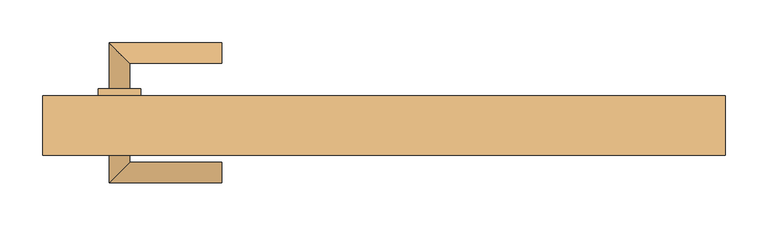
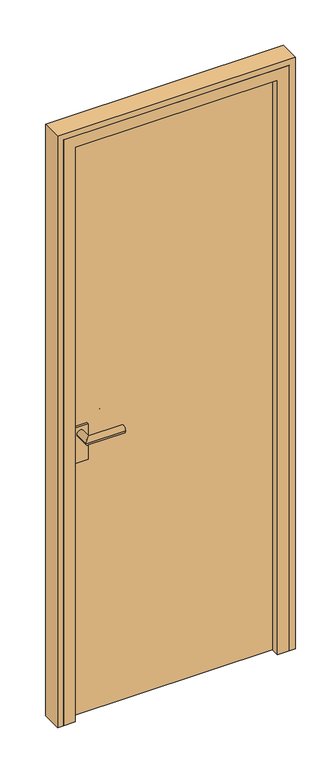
"""IFC4 building model written with IfcOpenShell, lengths in millimetres: door geometry, Дверь однопольная : дерев.внутр.глух 8х21 Л."""

from ifc_helpers import new_model, si_unit, frame, origin, origin_with_axes, place, context, project, spatial, polyline, circle_curve, ellipse_curve, outline, extrude, faceted_brep, source, transform, mapped, element, save
from ifc_brep_helpers import plane_surface, cylinder_surface, advanced_brep


def door_09ff0dbc(model_context):
    return source(origin(), model_context, "Body", "SolidModel", [
        advanced_brep(
        [(-190.0, 104.5, 1000.0), (-190.0, 80.5, 1000.0), (-322.0, 104.5, 1000.0), (-298.0, 80.5, 1000.0), (-322.0, 50.5, 1000.0), (-298.0, 50.5, 1000.0), (-322.0, -59.5, 1000.0), (-298.0, -35.5, 1000.0), (-298.0, -5.5, 1000.0), (-322.0, -5.5, 1000.0), (-190.0, -59.5, 1000.0), (-190.0, -35.5, 1000.0), (-335.0, 50.5, 1025.0), (-285.0, 50.5, 1025.0), (-285.0, 50.5, 900.0), (-335.0, 50.5, 900.0), (-335.0, -5.5, 1025.0), (-335.0, -5.5, 900.0), (-285.0, -5.5, 900.0), (-285.0, -5.5, 1025.0)],
        [
            (0, 1, circle_curve(frame((-190.0, 92.5, 1000.0), z_axis=(1.0, 0.0, 0.0), x_axis=(0.0, -1.0, 0.0)), 12.0)),
            (1, 0, circle_curve(frame((-190.0, 92.5, 1000.0), z_axis=(1.0, 0.0, 0.0), x_axis=(0.0, -1.0, 0.0)), 12.0)),
            (0, 2),
            (2, 3, ellipse_curve(frame((-310.0, 92.5, 1000.0), z_axis=(0.7071067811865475, 0.7071067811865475, 0.0), x_axis=(0.7071067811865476, -0.7071067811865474, 0.0)), 16.9705627, 12.0)),
            (3, 1),
            (3, 2, ellipse_curve(frame((-310.0, 92.5, 1000.0), z_axis=(0.7071067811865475, 0.7071067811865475, 0.0), x_axis=(0.7071067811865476, -0.7071067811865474, 0.0)), 16.9705627, 12.0)),
            (2, 4),
            (4, 5, circle_curve(frame((-310.0, 50.5, 1000.0), z_axis=(0.0, 1.0, 0.0), x_axis=(1.0, 0.0, 0.0)), 12.0)),
            (5, 3),
            (6, 7, ellipse_curve(frame((-310.0, -47.5, 1000.0), z_axis=(-0.7071067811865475, 0.7071067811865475, 0.0), x_axis=(0.7071067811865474, 0.7071067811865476, 0.0)), 16.9705627, 12.0)),
            (7, 8),
            (8, 9, circle_curve(frame((-310.0, -5.5, 1000.0), z_axis=(0.0, -1.0, 0.0), x_axis=(1.0, 0.0, 0.0)), 12.0)),
            (9, 6),
            (5, 4, circle_curve(frame((-310.0, 50.5, 1000.0), z_axis=(0.0, 1.0, 0.0), x_axis=(1.0, 0.0, 0.0)), 12.0)),
            (7, 6, ellipse_curve(frame((-310.0, -47.5, 1000.0), z_axis=(-0.7071067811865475, 0.7071067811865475, 0.0), x_axis=(0.7071067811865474, 0.7071067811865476, 0.0)), 16.9705627, 12.0)),
            (9, 8, circle_curve(frame((-310.0, -5.5, 1000.0), z_axis=(0.0, -1.0, 0.0), x_axis=(1.0, 0.0, 0.0)), 12.0)),
            (10, 11, circle_curve(frame((-190.0, -47.5, 1000.0), z_axis=(1.0, 0.0, 0.0), x_axis=(0.0, 1.0, 0.0)), 12.0)),
            (11, 10, circle_curve(frame((-190.0, -47.5, 1000.0), z_axis=(1.0, 0.0, 0.0), x_axis=(0.0, 1.0, 0.0)), 12.0)),
            (6, 10),
            (11, 7),
            (12, 13),
            (13, 14),
            (14, 15),
            (15, 12),
            (16, 17),
            (17, 18),
            (18, 19),
            (19, 16),
            (15, 17),
            (16, 12),
            (14, 18),
            (13, 19),
        ],
        [
            plane_surface(frame((-190.0, 92.5, 1000.0), z_axis=(1.0, 0.0, 0.0), x_axis=(0.0, 0.0, 1.0))),
            cylinder_surface(frame((-190.0, 92.5, 1000.0), z_axis=(1.0, 0.0, 0.0), x_axis=(0.0, -1.0, 0.0)), 12.0),
            cylinder_surface(frame((-310.0, 92.5, 1000.0), z_axis=(0.0, 1.0, 0.0), x_axis=(1.0, 0.0, 0.0)), 12.0),
            plane_surface(frame((-190.0, -47.5, 1000.0), z_axis=(1.0, 0.0, 0.0), x_axis=(0.0, 0.0, 1.0))),
            cylinder_surface(frame((-310.0, -47.5, 1000.0), z_axis=(-1.0, 0.0, 0.0), x_axis=(0.0, 1.0, 0.0)), 12.0),
            plane_surface(frame((-335.0, 50.5, 1025.0), z_axis=(0.0, 1.0, 0.0), x_axis=(0.0, 0.0, 1.0))),
            plane_surface(frame((-335.0, -5.5, 1025.0), z_axis=(0.0, -1.0, 0.0), x_axis=(0.0, 0.0, -1.0))),
            plane_surface(frame((-335.0, -5.5, 1025.0), z_axis=(-1.0, 0.0, 0.0), x_axis=(0.0, 1.0, 0.0))),
            plane_surface(frame((-335.0, -5.5, 900.0), z_axis=(0.0, 0.0, -1.0), x_axis=(0.0, 1.0, 0.0))),
            plane_surface(frame((-285.0, -5.5, 900.0), z_axis=(1.0, 0.0, 0.0), x_axis=(0.0, 1.0, 0.0))),
            plane_surface(frame((-285.0, -5.5, 1025.0), z_axis=(0.0, 0.0, 1.0), x_axis=(0.0, 1.0, 0.0))),
        ],
        [
            (0, [[1, 2]]),
            (1, [[-1, 3, 4, 5]]),
            (1, [[-2, -5, 6, -3]]),
            (2, [[-4, 7, 8, 9]]),
            (2, [[10, 11, 12, 13]]),
            (2, [[-6, -9, 14, -7]]),
            (2, [[15, -13, 16, -11]]),
            (3, [[17, 18]]),
            (4, [[-10, 19, -18, 20]]),
            (4, [[-15, -20, -17, -19]]),
            (5, [[21, 22, 23, 24], [-8, -14]]),
            (6, [[25, 26, 27, 28], [-12, -16]]),
            (7, [[-24, 29, -25, 30]]),
            (8, [[-23, 31, -26, -29]]),
            (9, [[-22, 32, -27, -31]]),
            (10, [[-21, -30, -28, -32]]),
        ],
    ),
        extrude(outline(polyline([(350.0, 2.5), (-350.0, 2.5), (-350.0, 42.5), (350.0, 42.5), (350.0, 2.5)])), origin_with_axes(), (0.0, 0.0, 1.0), 2050.0),
        extrude(outline(polyline([(0.0, 400.0), (2100.0, 400.0), (2100.0, -400.0), (0.0, -400.0), (0.0, -380.0), (2080.0, -380.0), (2080.0, 380.0), (0.0, 380.0), (0.0, 400.0)])), frame((0.0, -27.5, 0.0), z_axis=(0.0, 1.0, 0.0), x_axis=(0.0, 0.0, 1.0)), (0.0, 0.0, 1.0), 70.0),
        faceted_brep([(-380.0, -27.5, 0.0), (-380.0, 42.5, 0.0), (-350.0, 42.5, 0.0), (-350.0, 2.5, 0.0), (-340.0, 2.5, 0.0), (-340.0, -27.5, 0.0), (-380.0, -27.5, 2080.0), (-380.0, 42.5, 2080.0), (380.0, 42.5, 2080.0), (380.0, 42.5, 0.0), (350.0, 42.5, 0.0), (350.0, 42.5, 2050.0), (-350.0, 42.5, 2050.0), (-350.0, 2.5, 2050.0), (350.0, 2.5, 2050.0), (350.0, 2.5, 0.0), (340.0, 2.5, 0.0), (340.0, 2.5, 2040.0), (-340.0, 2.5, 2040.0), (-340.0, -27.5, 2040.0), (340.0, -27.5, 2040.0), (340.0, -27.5, 0.0), (380.0, -27.5, 0.0), (380.0, -27.5, 2080.0)], [[[0, 1, 2, 3, 4, 5]], [[1, 0, 6, 7]], [[2, 1, 7, 8, 9, 10, 11, 12]], [[3, 2, 12, 13]], [[4, 3, 13, 14, 15, 16, 17, 18]], [[5, 4, 18, 19]], [[0, 5, 19, 20, 21, 22, 23, 6]], [[7, 6, 23, 8]], [[13, 12, 11, 14]], [[19, 18, 17, 20]], [[22, 21, 16, 15, 10, 9]], [[8, 23, 22, 9]], [[14, 11, 10, 15]], [[20, 17, 16, 21]]]),
    ])


if __name__ == "__main__":
    model = new_model("IFC4")
    model_context = context("Model", 3, world=origin())
    ifc_project = project(units=[si_unit("LENGTHUNIT", "METRE", prefix="MILLI")], contexts=[model_context])
    site = spatial("IfcSite", under=ifc_project)
    building = spatial("IfcBuilding", under=site)
    placement = place(None, origin())
    door_shape = door_09ff0dbc(model_context)
    element("IfcDoor", 1, ObjectType="Дверь однопольная : дерев.внутр.глух 8х21 Л", at=placement, inside=building, context=model_context, shape_type="MappedRepresentation", body=[
        mapped(door_shape, transform((0.0, 0.0, 0.0), x_axis=(1.0, 0.0, 0.0), y_axis=(0.0, 1.0, 0.0), z_axis=(0.0, 0.0, 1.0))),
    ])
    save(model, "model.ifc")
